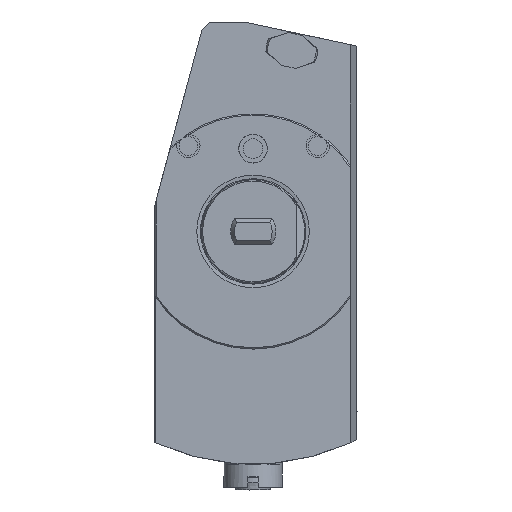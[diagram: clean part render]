
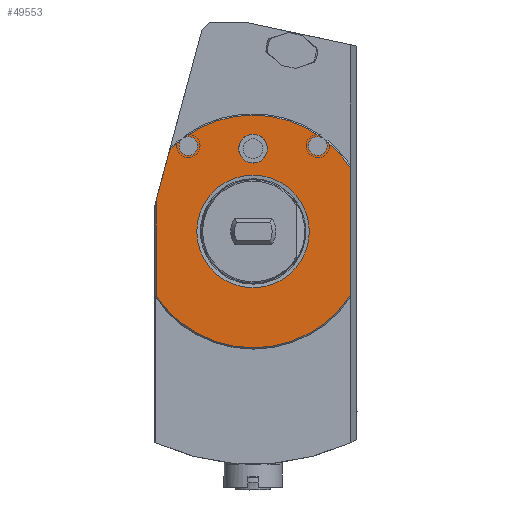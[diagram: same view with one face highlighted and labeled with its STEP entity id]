
A CAD part, left-side view. The second image highlights one B-rep face of the part: STEP entity #49553.
In plain terms, the highlighted planar face has unit normal (-1, 0, 0).
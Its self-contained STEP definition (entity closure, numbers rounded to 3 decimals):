
#21415=VECTOR('',#33321,1.);
#21416=VECTOR('',#33322,1.);
#21417=VECTOR('',#33325,1.);
#22423=LINE('',#36818,#21415);
#22424=LINE('',#36820,#21416);
#22425=LINE('',#36823,#21417);
#23446=ORIENTED_EDGE('',*,*,#29355,.T.);
#23447=ORIENTED_EDGE('',*,*,#29356,.F.);
#23448=ORIENTED_EDGE('',*,*,#29357,.F.);
#23449=ORIENTED_EDGE('',*,*,#29358,.F.);
#23450=ORIENTED_EDGE('',*,*,#29359,.F.);
#23451=ORIENTED_EDGE('',*,*,#29360,.F.);
#23452=ORIENTED_EDGE('',*,*,#29353,.F.);
#23453=ORIENTED_EDGE('',*,*,#29351,.T.);
#23454=ORIENTED_EDGE('',*,*,#29361,.F.);
#23455=ORIENTED_EDGE('',*,*,#29362,.T.);
#23456=ORIENTED_EDGE('',*,*,#29363,.F.);
#27507=CIRCLE('',#47839,3.634);
#27508=CIRCLE('',#47841,45.);
#27509=CIRCLE('',#47844,3.634);
#27510=CIRCLE('',#47845,45.);
#27511=CIRCLE('',#47846,45.);
#27512=CIRCLE('',#47847,45.);
#27513=CIRCLE('',#47848,5.55);
#27514=CIRCLE('',#47849,21.765);
#27978=VERTEX_POINT('',#36788);
#27979=VERTEX_POINT('',#36797);
#27980=VERTEX_POINT('',#36808);
#27981=VERTEX_POINT('',#36812);
#27982=VERTEX_POINT('',#36813);
#27983=VERTEX_POINT('',#36815);
#27984=VERTEX_POINT('',#36817);
#27985=VERTEX_POINT('',#36819);
#27986=VERTEX_POINT('',#36821);
#27987=VERTEX_POINT('',#36825);
#27988=VERTEX_POINT('',#36827);
#29351=EDGE_CURVE('',#27978,#27979,#27507,.T.);
#29353=EDGE_CURVE('',#27978,#27980,#27508,.T.);
#29355=EDGE_CURVE('',#27981,#27982,#27509,.T.);
#29356=EDGE_CURVE('',#27983,#27982,#27510,.T.);
#29357=EDGE_CURVE('',#27984,#27983,#22423,.T.);
#29358=EDGE_CURVE('',#27985,#27984,#22424,.T.);
#29359=EDGE_CURVE('',#27986,#27985,#27511,.T.);
#29360=EDGE_CURVE('',#27980,#27986,#22425,.T.);
#29361=EDGE_CURVE('',#27981,#27979,#27512,.T.);
#29362=EDGE_CURVE('',#27987,#27987,#27513,.T.);
#29363=EDGE_CURVE('',#27988,#27988,#27514,.T.);
#31376=EDGE_LOOP('',(#23446,#23447,#23448,#23449,#23450,#23451,#23452,#23453,
#23454));
#31377=EDGE_LOOP('',(#23455));
#31378=EDGE_LOOP('',(#23456));
#32328=FACE_BOUND('',#31376,.T.);
#32329=FACE_BOUND('',#31377,.T.);
#32330=FACE_BOUND('',#31378,.T.);
#33307=DIRECTION('',(1.,0.,0.));
#33308=DIRECTION('',(0.,-2.587,2.552));
#33311=DIRECTION('',(1.,0.,0.));
#33312=DIRECTION('',(0.,-33.829,29.675));
#33315=DIRECTION('',(-1.,0.,0.));
#33316=DIRECTION('',(0.,1.,0.));
#33317=DIRECTION('',(1.,0.,0.));
#33318=DIRECTION('',(0.,1.757,3.181));
#33319=DIRECTION('',(1.,0.,0.));
#33320=DIRECTION('',(0.,30.851,32.76));
#33321=DIRECTION('',(0.,-5.222,19.489));
#33322=DIRECTION('',(0.,0.,36.741));
#33323=DIRECTION('',(1.,0.,0.));
#33324=DIRECTION('',(0.,0.,-45.));
#33325=DIRECTION('',(0.,0.,-49.749));
#33326=DIRECTION('',(1.,0.,0.));
#33327=DIRECTION('',(0.,0.,45.));
#33328=DIRECTION('',(1.,0.,0.));
#33329=DIRECTION('',(0.,-5.55,0.));
#33330=DIRECTION('',(-1.,0.,0.));
#33331=DIRECTION('',(0.,21.765,0.));
#36788=CARTESIAN_POINT('',(0.,-27.587,35.552));
#36797=CARTESIAN_POINT('',(0.,-26.757,36.181));
#36798=CARTESIAN_POINT('',(0.,-25.,33.));
#36808=CARTESIAN_POINT('',(0.,-37.5,24.875));
#36809=CARTESIAN_POINT('',(0.,0.,0.));
#36811=CARTESIAN_POINT('',(0.,21.765,0.));
#36812=CARTESIAN_POINT('',(0.,26.757,36.181));
#36813=CARTESIAN_POINT('',(0.,27.587,35.552));
#36814=CARTESIAN_POINT('',(0.,25.,33.));
#36815=CARTESIAN_POINT('',(0.,32.278,31.355));
#36816=CARTESIAN_POINT('',(0.,0.,0.));
#36817=CARTESIAN_POINT('',(0.,37.5,11.866));
#36818=CARTESIAN_POINT('',(0.,37.5,11.866));
#36819=CARTESIAN_POINT('',(0.,37.5,-24.875));
#36820=CARTESIAN_POINT('',(0.,37.5,-24.875));
#36821=CARTESIAN_POINT('',(0.,-37.5,-24.875));
#36822=CARTESIAN_POINT('',(0.,0.,0.));
#36823=CARTESIAN_POINT('',(0.,-37.5,24.875));
#36824=CARTESIAN_POINT('',(0.,0.,0.));
#36825=CARTESIAN_POINT('',(0.,-5.55,32.));
#36826=CARTESIAN_POINT('',(0.,0.,
32.));
#36827=CARTESIAN_POINT('',(0.,21.765,0.));
#36828=CARTESIAN_POINT('',(0.,0.,0.));
#47839=AXIS2_PLACEMENT_3D('',#36798,#33307,#33308);
#47841=AXIS2_PLACEMENT_3D('',#36809,#33311,#33312);
#47843=AXIS2_PLACEMENT_3D('',#36811,#33315,#33316);
#47844=AXIS2_PLACEMENT_3D('',#36814,#33317,#33318);
#47845=AXIS2_PLACEMENT_3D('',#36816,#33319,#33320);
#47846=AXIS2_PLACEMENT_3D('',#36822,#33323,#33324);
#47847=AXIS2_PLACEMENT_3D('',#36824,#33326,#33327);
#47848=AXIS2_PLACEMENT_3D('',#36826,#33328,#33329);
#47849=AXIS2_PLACEMENT_3D('',#36828,#33330,#33331);
#49063=PLANE('',#47843);
#49553=ADVANCED_FACE('',(#32328,#32329,#32330),#49063,.T.);
